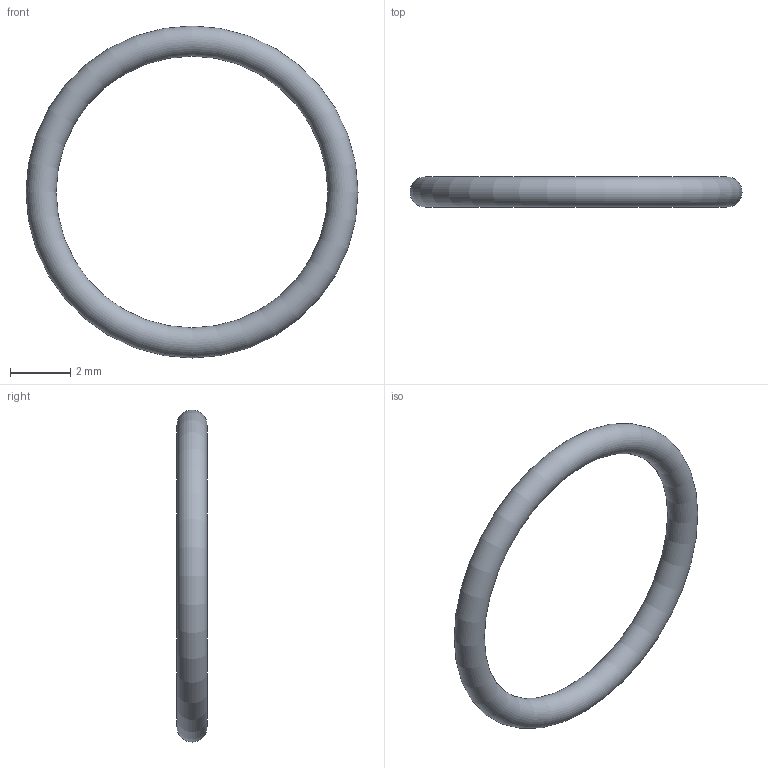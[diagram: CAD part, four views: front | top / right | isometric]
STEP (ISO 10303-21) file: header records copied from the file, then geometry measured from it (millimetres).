
FILE_DESCRIPTION( ( 'STEP AP203' ), '1' );
FILE_NAME( 'C:/Temp/Ganter_Step_05_03_2020/data/3_5/or638/O-Ring OR638-9.00-1.00-70.stp', '2020-03-12T13:44:16', ( 'License CC BY-ND 4.0' ), ( 'CADENAS' ), ' ', 'PARTsolutions', ' ' );
FILE_SCHEMA( ( 'CONFIG_CONTROL_DESIGN' ) );
Length unit declared in the file: millimetre
Products named in the file (1): _O-Ring OR638-9.00-1.00-70
Bounding box: 11 x 1 x 11 mm (x, y, z)
Volume: 24.7 mm3; surface area: 98.7 mm2
Topology: 1 solids, 1 shells, 1 faces, 2 edges, 1 vertices
Faces by surface type: torus 1
Entity records: 62 total; most frequent: CC_DESIGN_PERSON_AND_ORGANIZATION_ASSIGNMENT 5, PERSON_AND_ORGANIZATION_ROLE 4, DIRECTION 4, CARTESIAN_POINT 3, DATE_TIME_ROLE 2, CC_DESIGN_DATE_AND_TIME_ASSIGNMENT 2, AXIS2_PLACEMENT_3D 2, DIMENSIONAL_EXPONENTS 2
